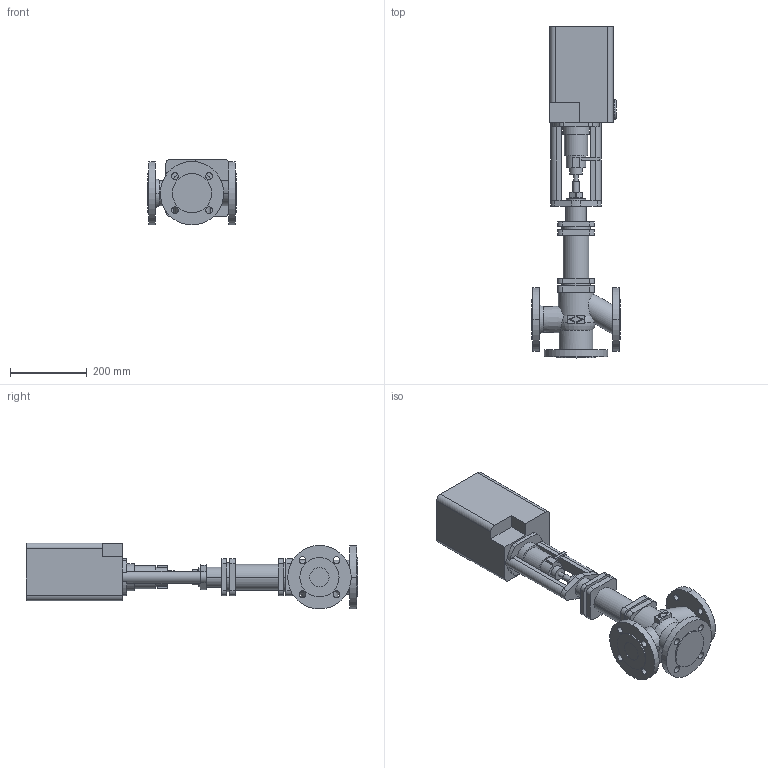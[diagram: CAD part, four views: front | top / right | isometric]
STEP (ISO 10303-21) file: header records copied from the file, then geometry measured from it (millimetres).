
FILE_DESCRIPTION(('OneSpaceDesigner STEP Export'),'2;1');
FILE_NAME('c000002437.stp','2006-09-21T11:43:14',(''),(''),'OneSpace Designer STEP processor for AP214 (Solid Model)','OneSpace Designer 13.20A 18-Aug-2005 (C) CoCreate Software GmbH','');
FILE_SCHEMA(('AUTOMOTIVE_DESIGN { 1 0 10303 214 1 1 1 1 }'));
Length unit declared in the file: millimetre
Products named in the file (2): 1; 2
Bounding box: 230 x 862.5 x 171.5 mm (x, y, z)
Volume: 10580612.2 mm3; surface area: 599432.1 mm2
Topology: 2 solids, 2 shells, 236 faces, 598 edges, 396 vertices
Faces by surface type: cylinder 114, plane 110, torus 8, cone 4
Entity records: 7028 total; most frequent: CARTESIAN_POINT 1540, ORIENTED_EDGE 1196, DIRECTION 1049, EDGE_CURVE 598, VERTEX_POINT 396, AXIS2_PLACEMENT_3D 365, VECTOR 319, LINE 319
